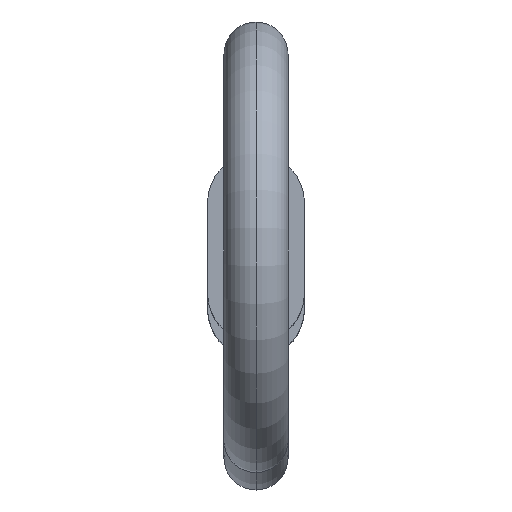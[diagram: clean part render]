
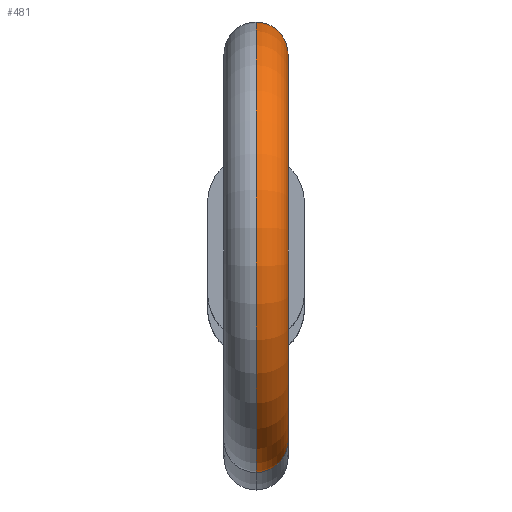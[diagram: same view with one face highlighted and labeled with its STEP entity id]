
A CAD part, top view. The second image highlights one B-rep face of the part: STEP entity #481.
In plain terms, the highlighted toroidal (fillet/blend) face has major radius 4.8 mm and minor radius 0.795 mm.
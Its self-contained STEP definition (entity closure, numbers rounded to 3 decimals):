
#8 = CARTESIAN_POINT ( 'NONE',  ( 0., 2.445, 123.8 ) ) ;
#24 = ORIENTED_EDGE ( 'NONE', *, *, #276, .T. ) ;
#33 = CARTESIAN_POINT ( 'NONE',  ( 0., 1.852, 124.33 ) ) ;
#36 = CARTESIAN_POINT ( 'NONE',  ( 0., -4.118, 124.33 ) ) ;
#40 = ORIENTED_EDGE ( 'NONE', *, *, #902, .T. ) ;
#90 = VERTEX_POINT ( 'NONE', #33 ) ;
#100 = CIRCLE ( 'NONE', #352, 0.795 ) ;
#102 = CIRCLE ( 'NONE', #681, 5.595 ) ;
#154 = CARTESIAN_POINT ( 'NONE',  ( 0., -1.133, 127. ) ) ;
#159 = EDGE_LOOP ( 'NONE', ( #24, #40, #382, #180 ) ) ;
#180 = ORIENTED_EDGE ( 'NONE', *, *, #302, .F. ) ;
#220 = FACE_OUTER_BOUND ( 'NONE', #159, .T. ) ;
#224 = DIRECTION ( 'NONE',  ( 1., 0., 0. ) ) ;
#225 = VERTEX_POINT ( 'NONE', #299 ) ;
#228 = CIRCLE ( 'NONE', #897, 0.795 ) ;
#276 = EDGE_CURVE ( 'NONE', #90, #773, #228, .T. ) ;
#299 = CARTESIAN_POINT ( 'NONE',  ( 0., -5.303, 123.27 ) ) ;
#302 = EDGE_CURVE ( 'NONE', #90, #601, #777, .T. ) ;
#352 = AXIS2_PLACEMENT_3D ( 'NONE', #511, #650, #443 ) ;
#369 = CARTESIAN_POINT ( 'NONE',  ( 0., -1.133, 127. ) ) ;
#382 = ORIENTED_EDGE ( 'NONE', *, *, #516, .F. ) ;
#443 = DIRECTION ( 'NONE',  ( 1., 0., 0. ) ) ;
#481 = ADVANCED_FACE ( 'NONE', ( #220 ), #863, .T. ) ;
#511 = CARTESIAN_POINT ( 'NONE',  ( 0., -4.711, 123.8 ) ) ;
#516 = EDGE_CURVE ( 'NONE', #601, #225, #100, .T. ) ;
#524 = DIRECTION ( 'NONE',  ( 0., 0., -1. ) ) ;
#535 = DIRECTION ( 'NONE',  ( 0., 0., -1. ) ) ;
#572 = CARTESIAN_POINT ( 'NONE',  ( 0., -1.133, 127. ) ) ;
#576 = DIRECTION ( 'NONE',  ( 1., 0., 0. ) ) ;
#592 = DIRECTION ( 'NONE',  ( 1., 0., 0. ) ) ;
#601 = VERTEX_POINT ( 'NONE', #36 ) ;
#650 = DIRECTION ( 'NONE',  ( 0., 0.667, -0.745 ) ) ;
#681 = AXIS2_PLACEMENT_3D ( 'NONE', #154, #756, #535 ) ;
#734 = DIRECTION ( 'NONE',  ( 0., 0., -1. ) ) ;
#741 = DIRECTION ( 'NONE',  ( 0., 0.667, 0.745 ) ) ;
#756 = DIRECTION ( 'NONE',  ( 1., 0., 0. ) ) ;
#759 = AXIS2_PLACEMENT_3D ( 'NONE', #369, #224, #524 ) ;
#773 = VERTEX_POINT ( 'NONE', #868 ) ;
#777 = CIRCLE ( 'NONE', #759, 4.005 ) ;
#842 = AXIS2_PLACEMENT_3D ( 'NONE', #572, #576, #734 ) ;
#863 = TOROIDAL_SURFACE ( 'NONE', #842, 4.8, 0.795 ) ;
#868 = CARTESIAN_POINT ( 'NONE',  ( 0., 3.037, 123.27 ) ) ;
#897 = AXIS2_PLACEMENT_3D ( 'NONE', #8, #741, #592 ) ;
#902 = EDGE_CURVE ( 'NONE', #773, #225, #102, .T. ) ;
